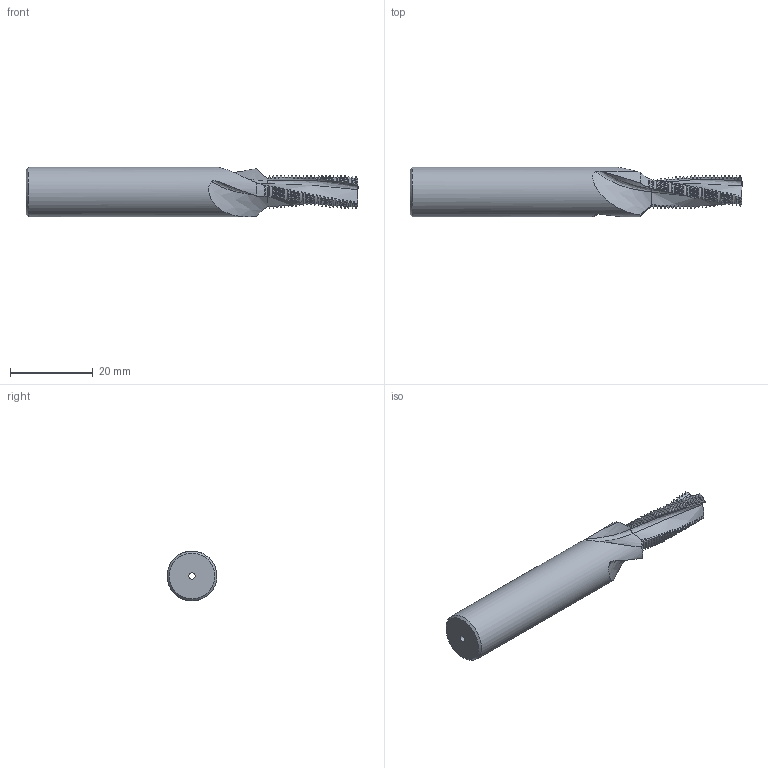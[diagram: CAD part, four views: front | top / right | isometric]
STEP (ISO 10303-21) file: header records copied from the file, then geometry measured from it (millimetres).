
FILE_DESCRIPTION(/* description */ (''),/* implementation_level */ '2;1');
FILE_NAME(/* name */ '00036403-STEP',/* time_stamp */ '2024-02-20T07:36:54+01:00',/* author */ (''),/* organization */ (''),/* preprocessor_version */ 'ST-DEVELOPER v16.5',/* originating_system */ 'HiCAD 2017 2201.0 Build 268',/* authorisation */ '');
FILE_SCHEMA (('AUTOMOTIVE_DESIGN { 1 0 10303 214 1 1 1 1 }'));
Products named in the file (2): Root; ROTATIONSTEIL_0
Assembly tree (1 placements, depth 2):
  Root
    ROTATIONSTEIL_0
Bounding box: 80 x 11.99 x 12 mm (x, y, z)
Volume: 6331.9 mm3; surface area: 3360.7 mm2
Topology: 1 solids, 1 shells, 324 faces, 1207 edges, 885 vertices
Faces by surface type: cone 151, torus 147, bspline 18, cylinder 6, plane 2
Full cylindrical faces by diameter (mm): 1.5 x1, 12 x1
Entity records: 40131 total; most frequent: CARTESIAN_POINT 19812, PRESENTATION_STYLE_ASSIGNMENT 2397, COLOUR_RGB 2397, DRAUGHTING_PRE_DEFINED_CURVE_FONT 2396, CURVE_STYLE 2396, OVER_RIDING_STYLED_ITEM 2396, ORIENTED_EDGE 2396, DIRECTION 1426
